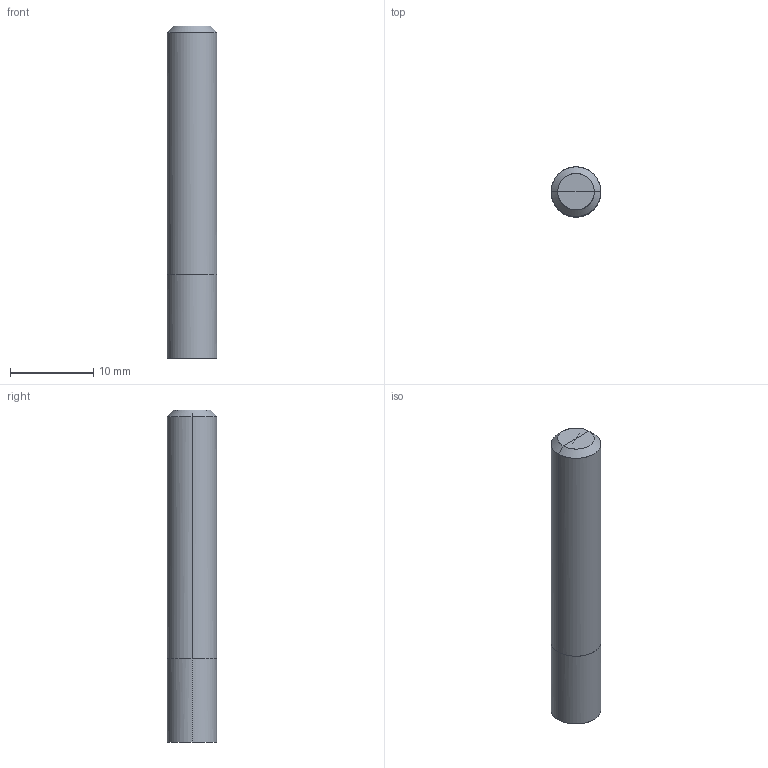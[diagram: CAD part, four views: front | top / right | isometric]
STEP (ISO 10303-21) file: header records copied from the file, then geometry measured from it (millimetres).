
FILE_DESCRIPTION(/* description */ (''),/* implementation_level */ '2;1');
FILE_NAME(/*name*/ '5031-6F',/*time_stamp*/'2021-4-28T11:15:12',/*author*/ ('ISBE GmbH'),/*organization*/ ('ISBE GmbH'),/*preprocessor_version*/ 'STEP IO v1.0',/*originating_system*/ '',/*authorisation*/ '');
FILE_SCHEMA (('AUTOMOTIVE_DESIGN'));
Length unit declared in the file: millimetre
Products named in the file (1): Document
Bounding box: 6 x 5.99 x 40 mm (x, y, z)
Surface area: 858.6 mm2 (no closed solid volume)
Topology: 0 solids, 14 shells, 14 faces, 61 edges, 58 vertices
Faces by surface type: bspline 14
Entity records: 1198 total; most frequent: CARTESIAN_POINT 921, VERTEX_POINT 48, EDGE_CURVE 48, ORIENTED_EDGE 48, DIRECTION 16, EDGE_LOOP 14, FACE_OUTER_BOUND 14, ADVANCED_FACE 14
